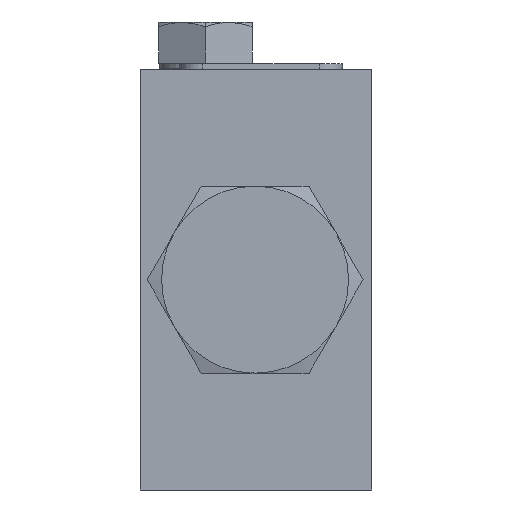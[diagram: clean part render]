
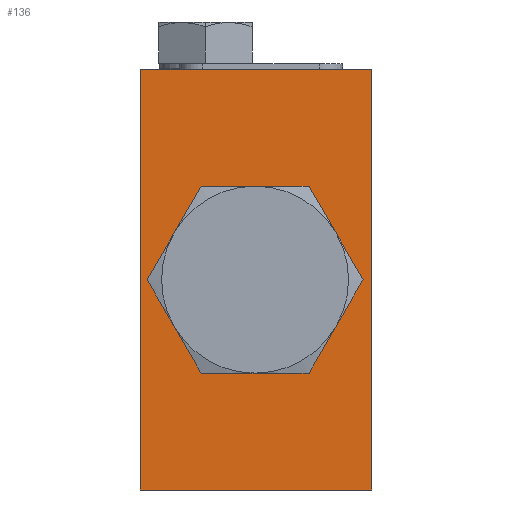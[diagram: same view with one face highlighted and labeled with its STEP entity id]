
A CAD part, left-side view. The second image highlights one B-rep face of the part: STEP entity #136.
In plain terms, the highlighted planar face has unit normal (-1, 0, 0).
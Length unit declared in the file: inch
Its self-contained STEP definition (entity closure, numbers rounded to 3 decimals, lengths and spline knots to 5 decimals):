
#5=DIRECTION('',(0.,-1.,0.));
#6=VECTOR('',#5,1.24);
#7=CARTESIAN_POINT('',(-2.00612,0.615,1.125));
#8=LINE('',#7,#6);
#17=DIRECTION('',(0.,0.,-1.));
#18=VECTOR('',#17,2.25);
#19=CARTESIAN_POINT('',(-2.00612,-0.625,1.125));
#20=LINE('',#19,#18);
#29=DIRECTION('',(0.,0.,-1.));
#30=VECTOR('',#29,2.25);
#31=CARTESIAN_POINT('',(-2.00612,0.615,1.125));
#32=LINE('',#31,#30);
#45=DIRECTION('',(0.,-1.,0.));
#46=VECTOR('',#45,1.24);
#47=CARTESIAN_POINT('',(-2.00612,0.615,-1.125));
#48=LINE('',#47,#46);
#49=CARTESIAN_POINT('',(-2.00612,-0.625,1.125));
#51=VERTEX_POINT('',#49);
#55=CARTESIAN_POINT('',(-2.00612,0.615,1.125));
#56=VERTEX_POINT('',#55);
#57=CARTESIAN_POINT('',(-2.00612,-0.625,-1.125));
#59=VERTEX_POINT('',#57);
#63=CARTESIAN_POINT('',(-2.00612,0.615,-1.125));
#64=VERTEX_POINT('',#63);
#124=CARTESIAN_POINT('',(-2.00612,0.615,1.125));
#125=DIRECTION('',(-1.,0.,0.));
#126=DIRECTION('',(0.,-1.,0.));
#127=AXIS2_PLACEMENT_3D('',#124,#125,#126);
#128=PLANE('',#127);
#129=ORIENTED_EDGE('',*,*,#72,.T.);
#130=ORIENTED_EDGE('',*,*,#91,.T.);
#132=ORIENTED_EDGE('',*,*,#131,.F.);
#133=ORIENTED_EDGE('',*,*,#116,.F.);
#134=EDGE_LOOP('',(#129,#130,#132,#133));
#135=FACE_OUTER_BOUND('',#134,.F.);
#136=ADVANCED_FACE('',(#135),#128,.T.);
#72=EDGE_CURVE('',#56,#51,#8,.T.);
#91=EDGE_CURVE('',#51,#59,#20,.T.);
#116=EDGE_CURVE('',#56,#64,#32,.T.);
#131=EDGE_CURVE('',#64,#59,#48,.T.);
